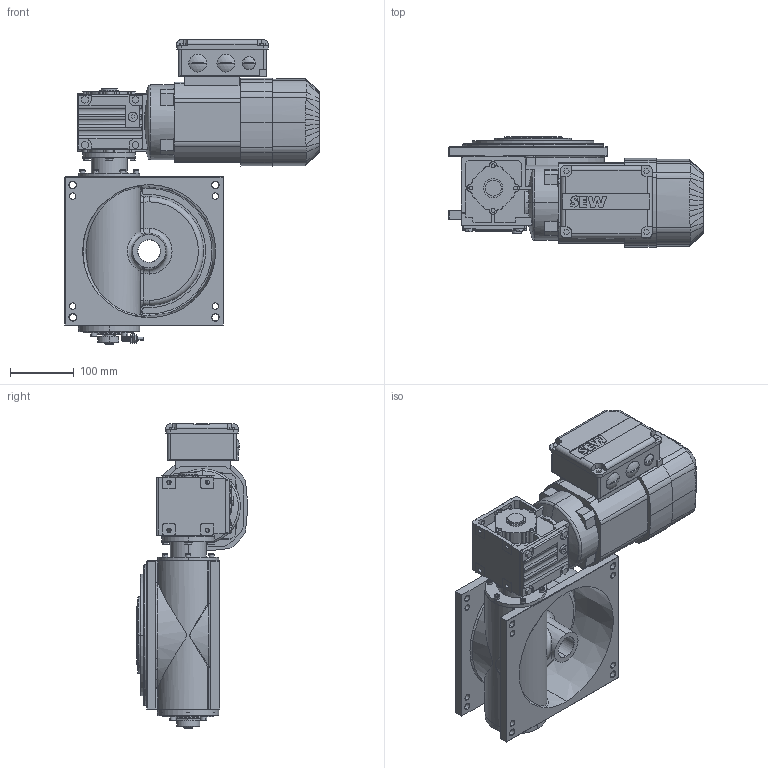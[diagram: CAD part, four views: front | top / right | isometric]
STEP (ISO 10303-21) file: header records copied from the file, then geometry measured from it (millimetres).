
FILE_DESCRIPTION (( 'STEP AP214' ), '1' );
FILE_NAME ('M190_SEW_WA20DRS71S4BE05_D1.STEP', '2021-01-25T15:02:28', ( '' ), ( '' ), 'SwSTEP 2.0', 'SolidWorks 2020', '' );
FILE_SCHEMA (( 'AUTOMOTIVE_DESIGN' ));
Length unit declared in the file: millimetre
Products named in the file (1): M190_SEW_WA20DRS71S4BE05_D1
Bounding box: 398 x 173.1 x 476.05 mm (x, y, z)
Surface area: 640703.2 mm2 (no closed solid volume)
Topology: 0 solids, 53 shells, 1442 faces, 4358 edges, 2882 vertices
Faces by surface type: plane 550, cylinder 538, cone 143, bspline 125, torus 68, sphere 18
Entity records: 77787 total; most frequent: CARTESIAN_POINT 23527, DIRECTION 8062, ORIENTED_EDGE 7623, EDGE_CURVE 4336, AXIS2_PLACEMENT_3D 2952, VERTEX_POINT 2882, VECTOR 2158, LINE 2158
